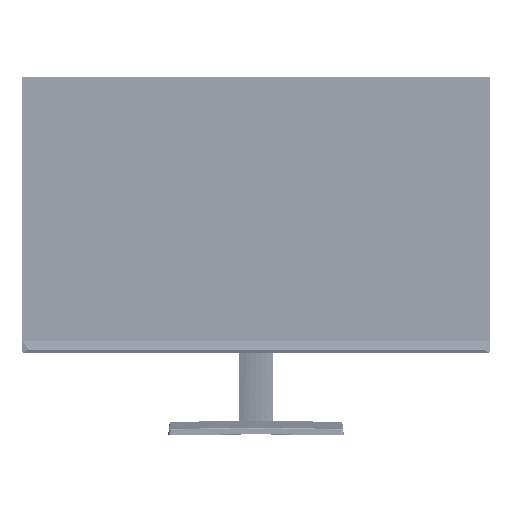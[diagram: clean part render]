
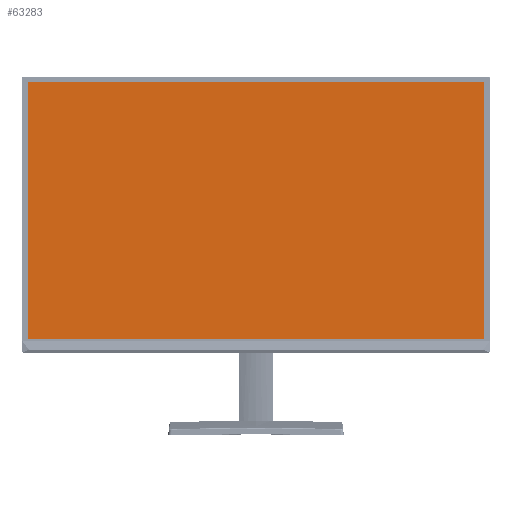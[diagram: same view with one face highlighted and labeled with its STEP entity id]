
A CAD part, top view. The second image highlights one B-rep face of the part: STEP entity #63283.
In plain terms, the highlighted planar face has unit normal (0, 0, 1).
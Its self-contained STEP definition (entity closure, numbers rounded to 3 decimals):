
#41788=PLANE('',#281517);
#63283=ADVANCED_FACE('',(#80835),#41788,.T.);
#80835=FACE_OUTER_BOUND('',#93369,.T.);
#93369=EDGE_LOOP('',(#152257,#152258,#152259,#152260));
#112225=LINE('',#358061,#129556);
#112226=LINE('',#358064,#129557);
#112227=LINE('',#358066,#129558);
#112228=LINE('',#358068,#129559);
#129556=VECTOR('',#304662,1.);
#129557=VECTOR('',#304663,1.);
#129558=VECTOR('',#304664,1.);
#129559=VECTOR('',#304665,1.);
#152257=ORIENTED_EDGE('',*,*,#244190,.F.);
#152258=ORIENTED_EDGE('',*,*,#244191,.F.);
#152259=ORIENTED_EDGE('',*,*,#244192,.F.);
#152260=ORIENTED_EDGE('',*,*,#244193,.F.);
#218811=VERTEX_POINT('',#358062);
#218812=VERTEX_POINT('',#358063);
#218813=VERTEX_POINT('',#358065);
#218814=VERTEX_POINT('',#358067);
#244190=EDGE_CURVE('',#218811,#218812,#112225,.T.);
#244191=EDGE_CURVE('',#218813,#218811,#112226,.T.);
#244192=EDGE_CURVE('',#218814,#218813,#112227,.T.);
#244193=EDGE_CURVE('',#218812,#218814,#112228,.T.);
#281517=AXIS2_PLACEMENT_3D('',#358069,#304666,#304667);
#304662=DIRECTION('',(0.,1.,0.));
#304663=DIRECTION('',(-1.,0.,0.));
#304664=DIRECTION('',(0.,-1.,0.));
#304665=DIRECTION('',(1.,0.,0.));
#304666=DIRECTION('',(0.,0.,1.));
#304667=DIRECTION('',(1.,0.,0.));
#358061=CARTESIAN_POINT('',(-298.944,6.739,0.65));
#358062=CARTESIAN_POINT('',(-298.944,-161.417,0.65));
#358063=CARTESIAN_POINT('',(-298.944,174.895,0.65));
#358064=CARTESIAN_POINT('',(0.,-161.417,0.65));
#358065=CARTESIAN_POINT('',(298.944,-161.417,0.65));
#358066=CARTESIAN_POINT('',(298.944,6.739,0.65));
#358067=CARTESIAN_POINT('',(298.944,174.895,0.65));
#358068=CARTESIAN_POINT('',(0.,174.895,0.65));
#358069=CARTESIAN_POINT('',(0.,6.226,0.65));
